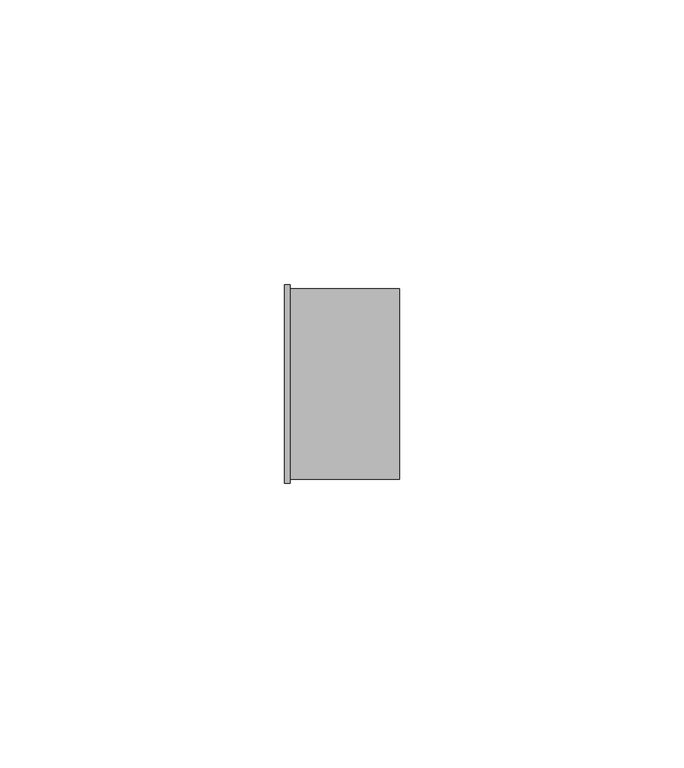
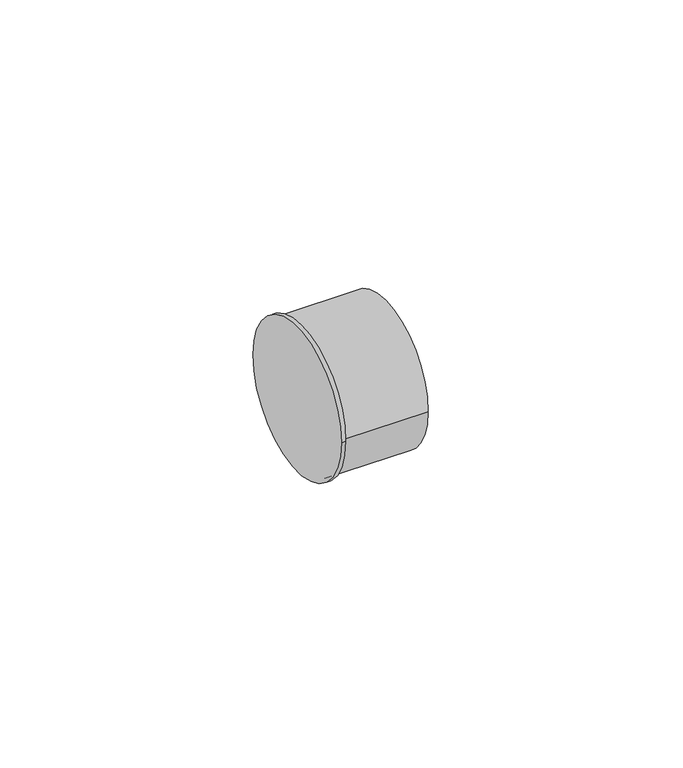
"""IFC4 building model written with IfcOpenShell, lengths in millimetres: pipe fitting geometry, Bucha de redução reta - Soldada - CU : Padrão."""

from ifc_helpers import new_model, si_unit, frame, origin, place, context, project, spatial, circle_curve, source, transform, mapped, element, save
from ifc_brep_helpers import plane_surface, cylinder_surface, advanced_brep


def pipe_fitting_ec53ccd8(model_context):
    return source(origin(), model_context, "Body", "AdvancedBrep", [
        advanced_brep(
        [(0.0, -17.465, 0.0), (0.0, 17.465, 0.0), (1.0, -17.465, 0.0), (1.0, 17.465, 0.0), (1.0, -16.72, 0.0), (1.0, 16.72, 0.0), (20.24, -16.72, 0.0), (20.24, 16.72, 0.0)],
        [
            (0, 1, circle_curve(frame((0.0, 0.0, 0.0), z_axis=(-1.0, 0.0, 0.0), x_axis=(0.0, 1.0, 0.0)), 17.465)),
            (1, 0, circle_curve(frame((0.0, 0.0, 0.0), z_axis=(-1.0, 0.0, 0.0), x_axis=(0.0, 1.0, 0.0)), 17.465)),
            (2, 3, circle_curve(frame((1.0, 0.0, 0.0), z_axis=(1.0, 0.0, 0.0), x_axis=(0.0, 1.0, 0.0)), 17.465)),
            (3, 2, circle_curve(frame((1.0, 0.0, 0.0), z_axis=(1.0, 0.0, 0.0), x_axis=(0.0, 1.0, 0.0)), 17.465)),
            (4, 5, circle_curve(frame((1.0, 0.0, 0.0), z_axis=(-1.0, 0.0, 0.0), x_axis=(0.0, 1.0, 0.0)), 16.72)),
            (5, 4, circle_curve(frame((1.0, 0.0, 0.0), z_axis=(-1.0, 0.0, 0.0), x_axis=(0.0, 1.0, 0.0)), 16.72)),
            (0, 2),
            (3, 1),
            (6, 7, circle_curve(frame((20.24, 0.0, 0.0), z_axis=(1.0, 0.0, 0.0), x_axis=(0.0, 1.0, 0.0)), 16.72)),
            (7, 6, circle_curve(frame((20.24, 0.0, 0.0), z_axis=(1.0, 0.0, 0.0), x_axis=(0.0, 1.0, 0.0)), 16.72)),
            (7, 5),
            (4, 6),
        ],
        [
            plane_surface(frame((0.0, 0.0, 0.0), z_axis=(-1.0, 0.0, 0.0), x_axis=(0.0, 0.0, 1.0))),
            plane_surface(frame((1.0, 0.0, 0.0), z_axis=(1.0, 0.0, 0.0), x_axis=(0.0, 0.0, 1.0))),
            cylinder_surface(frame((0.0, 0.0, 0.0), z_axis=(-1.0, 0.0, 0.0), x_axis=(0.0, 1.0, 0.0)), 17.465),
            plane_surface(frame((20.24, 0.0, 0.0), z_axis=(1.0, 0.0, 0.0), x_axis=(0.0, 0.0, 1.0))),
            cylinder_surface(frame((1.0, 0.0, 0.0), z_axis=(-1.0, 0.0, 0.0), x_axis=(0.0, 1.0, 0.0)), 16.72),
        ],
        [
            (0, [[1, 2]]),
            (1, [[3, 4], [5, 6]]),
            (2, [[-1, 7, -4, 8]]),
            (2, [[-2, -8, -3, -7]]),
            (3, [[9, 10]]),
            (4, [[-10, 11, -5, 12]]),
            (4, [[-9, -12, -6, -11]]),
        ],
    ),
    ])


if __name__ == "__main__":
    model = new_model("IFC4")
    model_context = context("Model", 3, world=origin())
    ifc_project = project(units=[si_unit("LENGTHUNIT", "METRE", prefix="MILLI")], contexts=[model_context])
    site = spatial("IfcSite", under=ifc_project)
    building = spatial("IfcBuilding", under=site)
    placement = place(None, origin())
    pipe_fitting_shape = pipe_fitting_ec53ccd8(model_context)
    element("IfcPipeFitting", 1, ObjectType="Bucha de redução reta - Soldada - CU : Padrão", at=placement, inside=building, context=model_context, shape_type="MappedRepresentation", body=[
        mapped(pipe_fitting_shape, transform((0.0, 0.0, 0.0), x_axis=(1.0, 0.0, 0.0), y_axis=(0.0, 1.0, 0.0), z_axis=(0.0, 0.0, 1.0))),
    ])
    save(model, "model.ifc")
